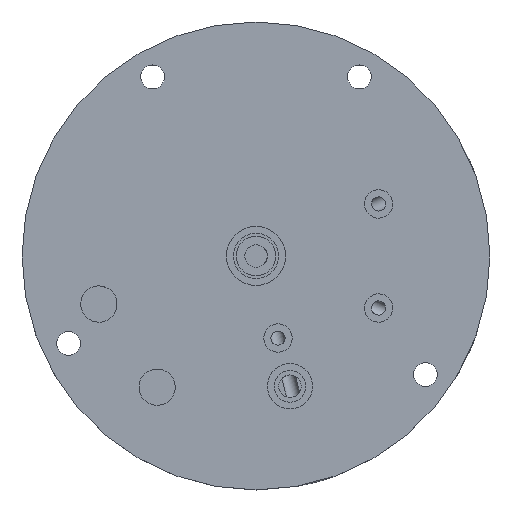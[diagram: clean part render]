
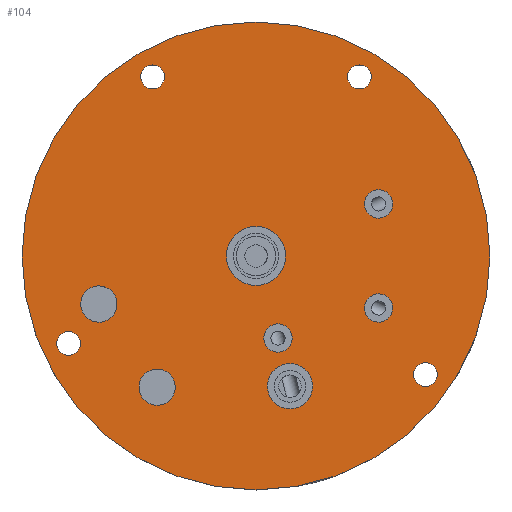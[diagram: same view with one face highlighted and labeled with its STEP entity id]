
A CAD part, top view. The second image highlights one B-rep face of the part: STEP entity #104.
In plain terms, the highlighted planar face has unit normal (0, 0, 1).
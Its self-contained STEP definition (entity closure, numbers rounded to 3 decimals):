
#104=ADVANCED_FACE('',(#252,#253,#254,#255,#256,#257,#258,#259,#260,#261,#262,#263),#264,.T.);
#252=FACE_BOUND('',#527,.T.);
#253=FACE_BOUND('',#528,.T.);
#254=FACE_BOUND('',#529,.T.);
#255=FACE_BOUND('',#530,.T.);
#256=FACE_BOUND('',#531,.T.);
#257=FACE_BOUND('',#532,.T.);
#258=FACE_BOUND('',#533,.T.);
#259=FACE_BOUND('',#534,.T.);
#260=FACE_BOUND('',#535,.T.);
#261=FACE_BOUND('',#536,.T.);
#262=FACE_BOUND('',#537,.T.);
#263=FACE_OUTER_BOUND('',#538,.T.);
#264=PLANE('',#539);
#527=EDGE_LOOP('',(#908));
#528=EDGE_LOOP('',(#909));
#529=EDGE_LOOP('',(#910));
#530=EDGE_LOOP('',(#911));
#531=EDGE_LOOP('',(#912));
#532=EDGE_LOOP('',(#913));
#533=EDGE_LOOP('',(#914));
#534=EDGE_LOOP('',(#915));
#535=EDGE_LOOP('',(#916));
#536=EDGE_LOOP('',(#917));
#537=EDGE_LOOP('',(#918));
#538=EDGE_LOOP('',(#919));
#539=AXIS2_PLACEMENT_3D('',#920,#921,#922);
#908=ORIENTED_EDGE('',*,*,#1288,.F.);
#909=ORIENTED_EDGE('',*,*,#1361,.F.);
#910=ORIENTED_EDGE('',*,*,#1362,.T.);
#911=ORIENTED_EDGE('',*,*,#1363,.T.);
#912=ORIENTED_EDGE('',*,*,#1364,.F.);
#913=ORIENTED_EDGE('',*,*,#1365,.T.);
#914=ORIENTED_EDGE('',*,*,#1366,.T.);
#915=ORIENTED_EDGE('',*,*,#1367,.T.);
#916=ORIENTED_EDGE('',*,*,#1289,.T.);
#917=ORIENTED_EDGE('',*,*,#1368,.T.);
#918=ORIENTED_EDGE('',*,*,#1369,.T.);
#919=ORIENTED_EDGE('',*,*,#1303,.T.);
#920=CARTESIAN_POINT('',(0.,0.0,30.6));
#921=DIRECTION('',(0.0,0.0,1.0));
#922=DIRECTION('',(1.0,0.0,0.0));
#1288=EDGE_CURVE('',#1438,#1438,#1439,.T.);
#1289=EDGE_CURVE('',#1440,#1440,#1441,.T.);
#1303=EDGE_CURVE('',#1468,#1468,#1469,.T.);
#1361=EDGE_CURVE('',#1570,#1570,#1571,.T.);
#1362=EDGE_CURVE('',#1572,#1572,#1573,.T.);
#1363=EDGE_CURVE('',#1574,#1574,#1575,.T.);
#1364=EDGE_CURVE('',#1576,#1576,#1577,.T.);
#1365=EDGE_CURVE('',#1578,#1578,#1579,.T.);
#1366=EDGE_CURVE('',#1580,#1580,#1581,.T.);
#1367=EDGE_CURVE('',#1582,#1582,#1583,.T.);
#1368=EDGE_CURVE('',#1584,#1584,#1585,.T.);
#1369=EDGE_CURVE('',#1586,#1586,#1587,.T.);
#1438=VERTEX_POINT('',#1713);
#1439=CIRCLE('',#1714,2.5);
#1440=VERTEX_POINT('',#1715);
#1441=CIRCLE('',#1716,2.1);
#1468=VERTEX_POINT('',#1799);
#1469=CIRCLE('',#1800,41.3);
#1570=VERTEX_POINT('',#2121);
#1571=CIRCLE('',#2122,2.5);
#1572=VERTEX_POINT('',#2123);
#1573=CIRCLE('',#2124,3.2);
#1574=VERTEX_POINT('',#2125);
#1575=CIRCLE('',#2126,3.2);
#1576=VERTEX_POINT('',#2127);
#1577=CIRCLE('',#2128,2.5);
#1578=VERTEX_POINT('',#2129);
#1579=CIRCLE('',#2130,4.0);
#1580=VERTEX_POINT('',#2131);
#1581=CIRCLE('',#2132,2.1);
#1582=VERTEX_POINT('',#2133);
#1583=CIRCLE('',#2134,2.1);
#1584=VERTEX_POINT('',#2135);
#1585=CIRCLE('',#2136,2.1);
#1586=VERTEX_POINT('',#2137);
#1587=CIRCLE('',#2138,5.2);
#1713=CARTESIAN_POINT('',(19.331,8.205,30.6));
#1714=AXIS2_PLACEMENT_3D('',#2265,#2266,#2267);
#1715=CARTESIAN_POINT('',(20.35,31.61,30.6));
#1716=AXIS2_PLACEMENT_3D('',#2268,#2269,#2270);
#1799=CARTESIAN_POINT('',(0.,-41.3,30.6));
#1800=AXIS2_PLACEMENT_3D('',#2297,#2298,#2299);
#2121=CARTESIAN_POINT('',(19.331,-8.205,30.6));
#2122=AXIS2_PLACEMENT_3D('',#2422,#2423,#2424);
#2123=CARTESIAN_POINT('',(-28.668,-5.419,30.6));
#2124=AXIS2_PLACEMENT_3D('',#2425,#2426,#2427);
#2125=CARTESIAN_POINT('',(-20.008,-21.235,30.6));
#2126=AXIS2_PLACEMENT_3D('',#2428,#2429,#2430);
#2127=CARTESIAN_POINT('',(3.235,-12.074,30.6));
#2128=AXIS2_PLACEMENT_3D('',#2431,#2432,#2433);
#2129=CARTESIAN_POINT('',(6.0,-27.0,30.6));
#2130=AXIS2_PLACEMENT_3D('',#2434,#2435,#2436);
#2131=CARTESIAN_POINT('',(-30.98,-15.426,30.6));
#2132=AXIS2_PLACEMENT_3D('',#2437,#2438,#2439);
#2133=CARTESIAN_POINT('',(31.999,-20.936,30.6));
#2134=AXIS2_PLACEMENT_3D('',#2440,#2441,#2442);
#2135=CARTESIAN_POINT('',(-16.15,31.61,30.6));
#2136=AXIS2_PLACEMENT_3D('',#2443,#2444,#2445);
#2137=CARTESIAN_POINT('',(0.,-5.2,30.6));
#2138=AXIS2_PLACEMENT_3D('',#2446,#2447,#2448);
#2265=CARTESIAN_POINT('',(21.632,9.182,30.6));
#2266=DIRECTION('',(0.,0.,1.0));
#2267=DIRECTION('',(-0.921,-0.391,0.));
#2268=CARTESIAN_POINT('',(18.25,31.61,30.6));
#2269=DIRECTION('',(0.,0.0,-1.0));
#2270=DIRECTION('',(1.0,0.0,0.));
#2297=CARTESIAN_POINT('',(0.,0.0,30.6));
#2298=DIRECTION('',(0.0,0.0,1.0));
#2299=DIRECTION('',(0.0,-1.0,0.0));
#2422=CARTESIAN_POINT('',(21.632,-9.182,30.6));
#2423=DIRECTION('',(0.,0.,1.0));
#2424=DIRECTION('',(-0.921,0.391,0.));
#2425=CARTESIAN_POINT('',(-27.733,-8.479,30.6));
#2426=DIRECTION('',(0.0,0.0,-1.0));
#2427=DIRECTION('',(-0.292,0.956,0.0));
#2428=CARTESIAN_POINT('',(-17.453,-23.16,30.6));
#2429=DIRECTION('',(0.0,0.0,-1.0));
#2430=DIRECTION('',(-0.799,0.602,0.0));
#2431=CARTESIAN_POINT('',(3.882,-14.489,30.6));
#2432=DIRECTION('',(0.,0.,1.0));
#2433=DIRECTION('',(-0.259,0.966,0.));
#2434=CARTESIAN_POINT('',(6.0,-23.0,30.6));
#2435=DIRECTION('',(0.0,0.0,-1.0));
#2436=DIRECTION('',(0.0,-1.0,0.0));
#2437=CARTESIAN_POINT('',(-33.08,-15.426,30.6));
#2438=DIRECTION('',(0.,0.0,-1.0));
#2439=DIRECTION('',(1.0,0.0,0.));
#2440=CARTESIAN_POINT('',(29.899,-20.936,30.6));
#2441=DIRECTION('',(0.,0.0,-1.0));
#2442=DIRECTION('',(1.0,0.0,0.));
#2443=CARTESIAN_POINT('',(-18.25,31.61,30.6));
#2444=DIRECTION('',(0.,0.0,-1.0));
#2445=DIRECTION('',(1.0,0.0,0.));
#2446=CARTESIAN_POINT('',(0.,0.0,30.6));
#2447=DIRECTION('',(0.0,0.0,-1.0));
#2448=DIRECTION('',(0.0,-1.0,0.0));
